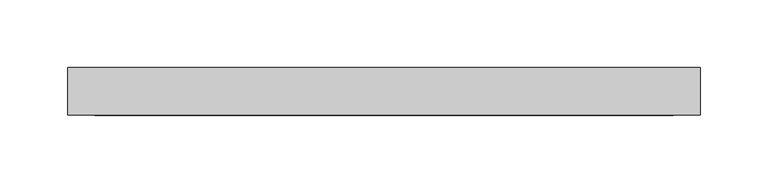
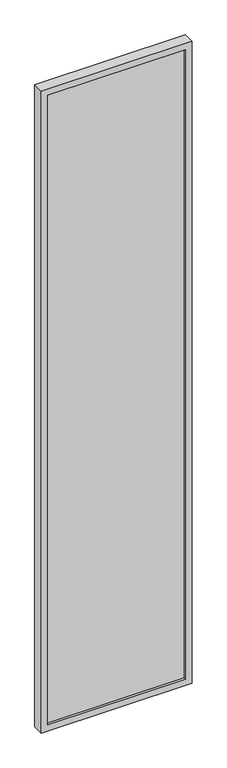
"""IFC4 building model written with IfcOpenShell, lengths in millimetres: plate geometry, ARQ-PA-IN-Vidrio Fijo Laminado  : ARQ-PA-IN-Vidrio Fijo Laminado ."""

from ifc_helpers import new_model, si_unit, frame, origin, place, context, project, spatial, polyline, outline, extrude, source, transform, mapped, element, save


def plate_42b89756(model_context):
    return source(origin(), model_context, "Body", "SweptSolid", [
        extrude(outline(polyline([(213.3837957, 10.0), (213.3837957, -10.0), (-213.3837957, -10.0), (-213.3837957, 10.0), (213.3837957, 10.0)])), frame((0.0, 0.0, 20.0), z_axis=(0.0, 0.0, 1.0), x_axis=(1.0, 0.0, 0.0)), (0.0, 0.0, 1.0), 2060.0),
        extrude(outline(polyline([(2100.0, -233.3837957), (0.0, -233.3837957), (0.0, 233.3837957), (2100.0, 233.3837957), (2100.0, -233.3837957)]), holes=[polyline([(2080.0, -213.3837957), (2080.0, 213.3837957), (20.0, 213.3837957), (20.0, -213.3837957), (2080.0, -213.3837957)])]), frame((0.0, -17.5, 0.0), z_axis=(0.0, 1.0, 0.0), x_axis=(0.0, 0.0, 1.0)), (0.0, 0.0, 1.0), 35.0),
    ])


if __name__ == "__main__":
    model = new_model("IFC4")
    model_context = context("Model", 3, world=origin())
    ifc_project = project(units=[si_unit("LENGTHUNIT", "METRE", prefix="MILLI")], contexts=[model_context])
    site = spatial("IfcSite", under=ifc_project)
    building = spatial("IfcBuilding", under=site)
    placement = place(None, origin())
    plate_shape = plate_42b89756(model_context)
    element("IfcPlate", 1, ObjectType="ARQ-PA-IN-Vidrio Fijo Laminado  : ARQ-PA-IN-Vidrio Fijo Laminado ", at=placement, inside=building, context=model_context, shape_type="MappedRepresentation", body=[
        mapped(plate_shape, transform((0.0, 0.0, 0.0), x_axis=(1.0, 0.0, 0.0), y_axis=(0.0, 1.0, 0.0), z_axis=(0.0, 0.0, 1.0))),
    ])
    save(model, "model.ifc")
